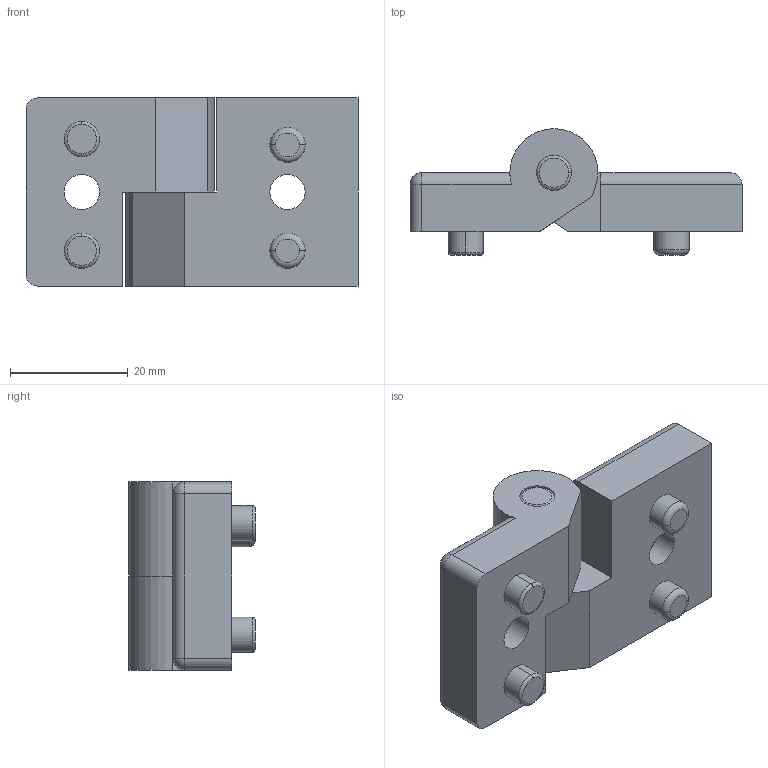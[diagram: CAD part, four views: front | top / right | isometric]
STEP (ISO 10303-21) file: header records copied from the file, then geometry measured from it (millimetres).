
FILE_DESCRIPTION (( 'STEP AP203' ), '1' );
FILE_NAME ('208-CE-HGD-35.STEP', '2015-07-09T09:26:00', ( '' ), ( '' ), 'SwSTEP 2.0', 'SolidWorks 2013', '' );
FILE_SCHEMA (( 'CONFIG_CONTROL_DESIGN' ));
Length unit declared in the file: millimetre
Products named in the file (1): 208-CE-HGD-35
Bounding box: 56.5 x 21.5 x 32 mm (x, y, z)
Surface area: 7780.9 mm2 (no closed solid volume)
Topology: 0 solids, 4 shells, 72 faces, 164 edges, 102 vertices
Faces by surface type: cylinder 32, plane 24, torus 12, sphere 2, bspline 2
Entity records: 2136 total; most frequent: CARTESIAN_POINT 387, DIRECTION 380, ORIENTED_EDGE 320, EDGE_CURVE 162, AXIS2_PLACEMENT_3D 155, VERTEX_POINT 102, EDGE_LOOP 86, CIRCLE 84
